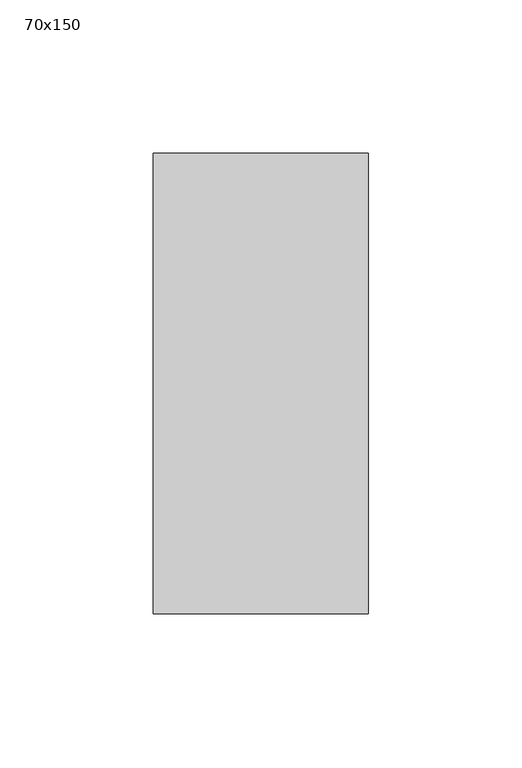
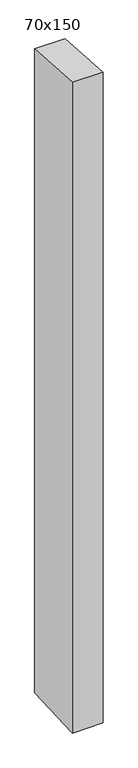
"""IFC4 building model written with IfcOpenShell, lengths in millimetres: member geometry, 長方形のマリオン : 70x150."""

from ifc_helpers import new_model, si_unit, frame, origin, place, context, project, spatial, polyline, outline, extrude, source, transform, mapped, element, save


def member_70x150_3a6e4ddf(model_context):
    return source(origin(), model_context, "Body", "SweptSolid", [
        extrude(outline(polyline([(-75.0, 4.8333526), (75.0, -4.8333526), (75.0, -1567.7578206), (-75.0, -1574.365695), (-75.0, 4.8333526)])), frame((-35.0, 0.0, 0.0), z_axis=(1.0, 0.0, 0.0), x_axis=(0.0, 1.0, 0.0)), (0.0, 0.0, 1.0), 70.0),
    ])


if __name__ == "__main__":
    model = new_model("IFC4")
    model_context = context("Model", 3, world=origin())
    ifc_project = project(units=[si_unit("LENGTHUNIT", "METRE", prefix="MILLI")], contexts=[model_context])
    site = spatial("IfcSite", under=ifc_project)
    building = spatial("IfcBuilding", under=site)
    placement = place(None, origin())
    member_70x150_shape = member_70x150_3a6e4ddf(model_context)
    element("IfcMember", 1, ObjectType="長方形のマリオン : 70x150", at=placement, inside=building, context=model_context, shape_type="MappedRepresentation", body=[
        mapped(member_70x150_shape, transform((0.0, 0.0, 0.0), x_axis=(1.0, 0.0, 0.0), y_axis=(0.0, 1.0, 0.0), z_axis=(0.0, 0.0, 1.0))),
    ])
    save(model, "model.ifc")
